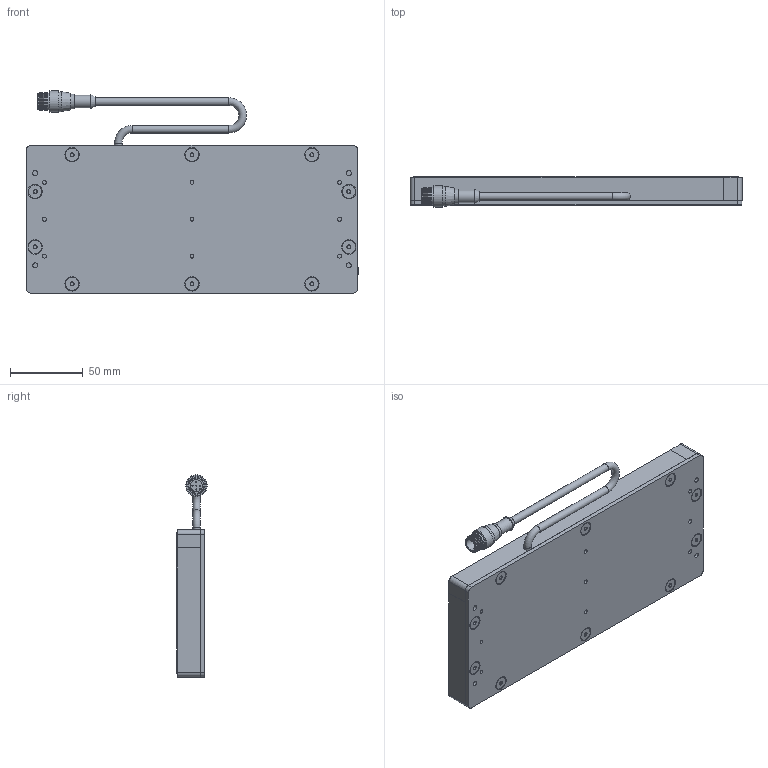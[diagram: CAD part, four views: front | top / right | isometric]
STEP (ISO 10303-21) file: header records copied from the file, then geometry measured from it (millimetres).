
FILE_DESCRIPTION (( 'STEP AP214' ), '1' );
FILE_NAME ('SBL38-XXX-WDC.STEP', '2026-04-17T18:40:39', ( '' ), ( '' ), 'SwSTEP 2.0', 'SolidWorks 2025', '' );
FILE_SCHEMA (( 'AUTOMOTIVE_DESIGN' ));
Length unit declared in the file: inch
Products named in the file (11): SC Pigtail Complete 18_5pin; MC Pigtail 24; 8-32 x 0.375 FHCS (92210A192)_92210A192; M12 Connector 4,5 and 8 pin_RS4.5T; SBL3 to 18in rail_08in rail; SBL3 to 18in rail_03in rail; SBL38-XXX-WDC; Hex Standoff .375 x 8-32; WD-SBLYYXX_3x8; BackPlate BLYYXX_0308; SBL3 to 18in rail_08in No CG
Assembly tree (29 placements, depth 3):
  SBL38-XXX-WDC
    BackPlate BLYYXX_0308
    SBL3 to 18in rail_08in rail
    SBL3 to 18in rail_08in No CG
    SBL3 to 18in rail_03in rail  x2
    SC Pigtail Complete 18_5pin
      MC Pigtail 24
      M12 Connector 4,5 and 8 pin_RS4.5T
    WD-SBLYYXX_3x8
    Hex Standoff .375 x 8-32  x10
    8-32 x 0.375 FHCS (92210A192)_92210A192  x10
Bounding box: 228.6 x 20.74 x 139.13 mm (x, y, z)
Volume: 242826 mm3; surface area: 148039 mm2
Topology: 28 solids, 28 shells, 741 faces, 1725 edges, 1061 vertices
Faces by surface type: plane 299, cylinder 215, cone 169, bspline 30, torus 23, sphere 5
Full cylindrical faces by diameter (mm): 0.762 x5, 2.705 x9, 3.454 x14, 4.496 x20, 5.207 x3, 6.604 x8, 6.858 x10, 8.382 x1, 8.636 x1, 9.119 x10, 10.16 x1, 10.541 x1, 11.938 x1, 13.716 x2, 14.732 x1
Entity records: 13559 total; most frequent: CARTESIAN_POINT 3721, DIRECTION 1839, ORIENTED_EDGE 1486, AXIS2_PLACEMENT_3D 750, EDGE_CURVE 743, EDGE_LOOP 557, VERTEX_POINT 544, FACE_OUTER_BOUND 424
